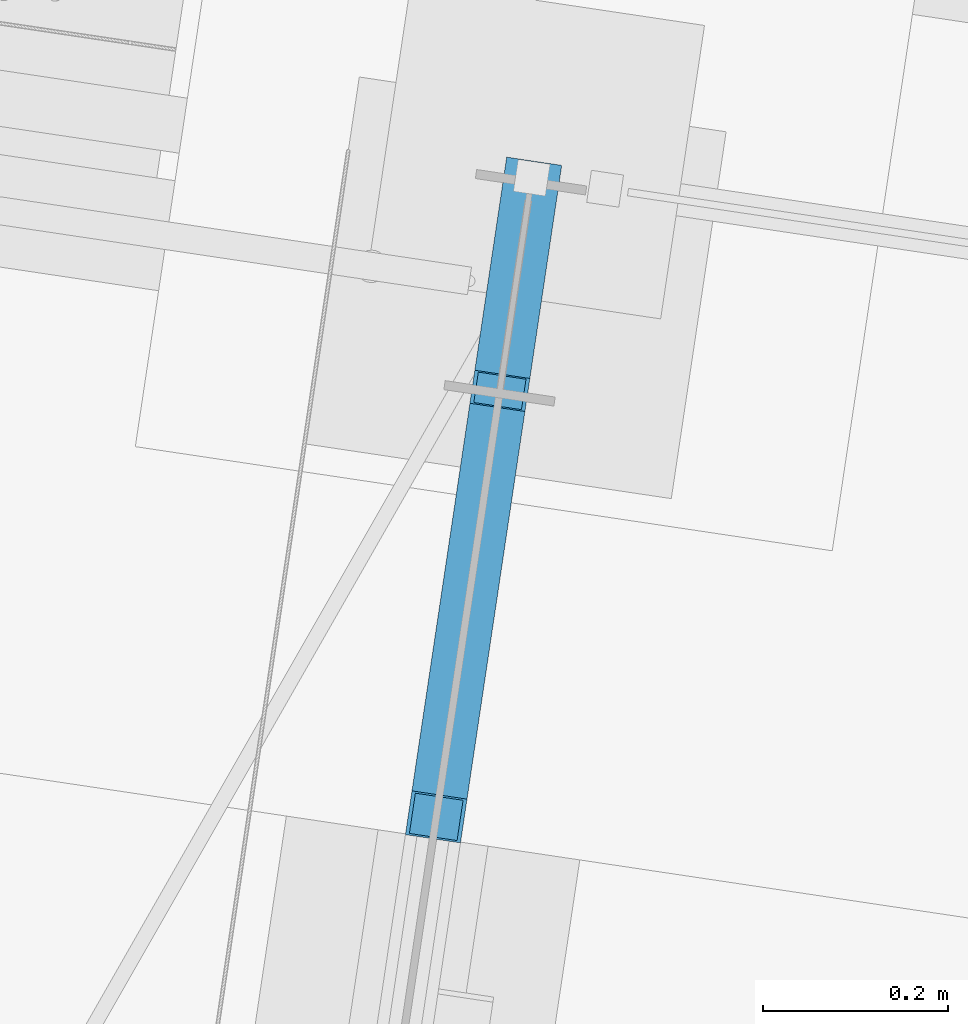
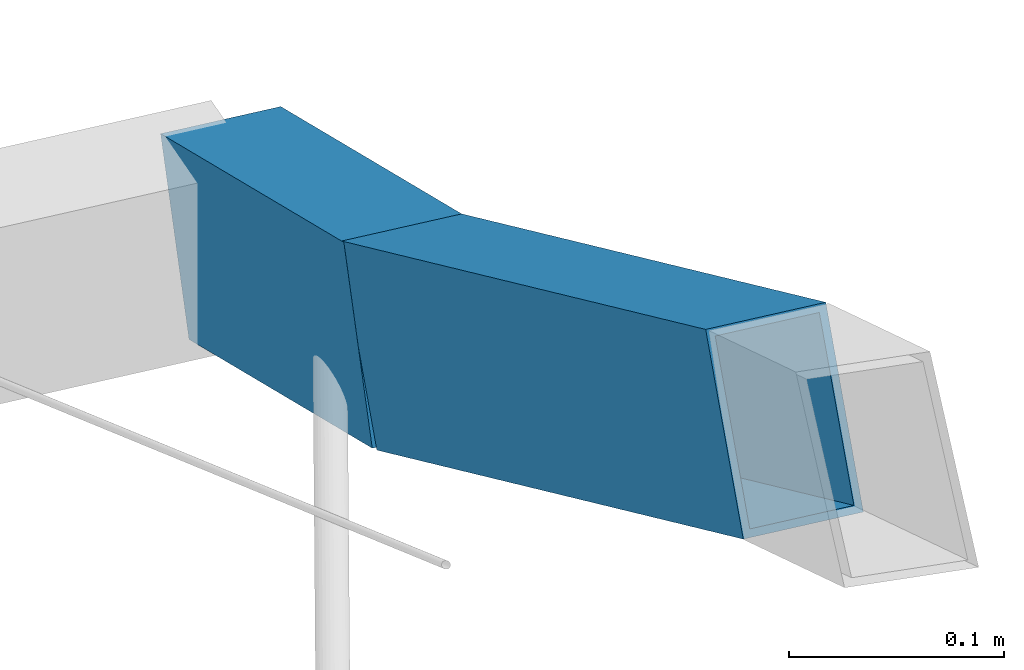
# One storey, part 114 of 142: 2 members, 1 element without a shape of its own.
"""IFC4 building model written with IfcOpenShell, lengths in metres."""

from ifc_helpers import new_model, si_unit, direction, frame, origin_with_axes, place, context, subcontext, project, spatial, hollow_rectangle, extrude, material, material_profile, profile_set, profile_usage, type_object, element, aggregate, save


model = new_model("IFC4")

# Units and contexts
model_context = context("Model", 3, precision=1e-05, world=origin_with_axes(), true_north=direction((0.0, 1.0)))
body_context = subcontext(model_context, "Body", "Model", "MODEL_VIEW")
ifc_project = project(units=[si_unit("AREAUNIT", "SQUARE_METRE"), si_unit("VOLUMEUNIT", "CUBIC_METRE"), si_unit("LENGTHUNIT", "METRE")], contexts=[model_context])

# Site, building, storey
site_placement = place(None, origin_with_axes())
site = spatial("IfcSite", under=ifc_project, at=site_placement, Name="Lares · Rua das Mercês · artigo 4771")
building_placement = place(site_placement, frame((15.0, 9.7, 14.65), z_axis=(0.0, 0.0, 1.0), x_axis=(0.989015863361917, -0.147809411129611, 0.0)))
building = spatial("IfcBuilding", under=site, at=building_placement, Name="Casa Sobreposta")
storey_placement = place(building_placement, origin_with_axes())
storey = spatial("IfcBuildingStorey", under=building, at=storey_placement, Name="00 · Habitação e estacionamento", Elevation=14.65)

# Assembly, members
assembly_placement = place(storey_placement, origin_with_axes())
assembly = element("IfcElementAssembly", 1, at=assembly_placement, inside=storey, Name="Pérgola · prolongamento da estufa 6 m", ObjectType="PERGOLA_GREENHOUSE_EXTENSION", PredefinedType="USERDEFINED")
ifc_material = material(Name="Aço pintado / Stahl lackiert", Category="steel")
ifc_material_profile = material_profile(ifc_material, hollow_rectangle(XDim=0.06, YDim=0.1, WallThickness=0.004))
ifc_profile_set = profile_set([ifc_material_profile], Name="RHS100x60x4")
ifc_profile_usage_1 = profile_usage(ifc_profile_set)
member_type = type_object("IfcMemberType", Name="RHS100x60x4 / steel", PredefinedType="NOTDEFINED", material=ifc_profile_set)
member_1_placement = place(assembly_placement, frame((0.0, 5.70303916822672, 6.57620268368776), z_axis=(0.0, 0.878867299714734, -0.477066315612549), x_axis=(1.0, 0.0, 0.0)))
member_1 = element("IfcMember", 2, at=member_1_placement, type_object=member_type, material=ifc_profile_usage_1, Name="Pérgola · arco contínuo com a estufa", context=body_context, shape_type="SweptSolid", body=[
    extrude(hollow_rectangle(XDim=0.06, YDim=0.1, WallThickness=0.004), origin_with_axes(), (0.0, 0.0, 1.0), 0.52859183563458),
])
ifc_profile_usage_2 = profile_usage(ifc_profile_set)
member_2_placement = place(assembly_placement, frame((0.0, 6.16760124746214, 6.3240293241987), z_axis=(0.0, 0.932880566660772, -0.360185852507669), x_axis=(1.0, 0.0, 0.0)))
member_2 = element("IfcMember", 3, at=member_2_placement, type_object=member_type, material=ifc_profile_usage_2, Name="Pérgola · arco contínuo com a estufa", context=body_context, shape_type="SweptSolid", body=[
    extrude(hollow_rectangle(XDim=0.06, YDim=0.1, WallThickness=0.004), origin_with_axes(), (0.0, 0.0, 1.0), 0.249119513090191),
])
aggregate(assembly, [member_1, member_2])

save(model, "model.ifc")
